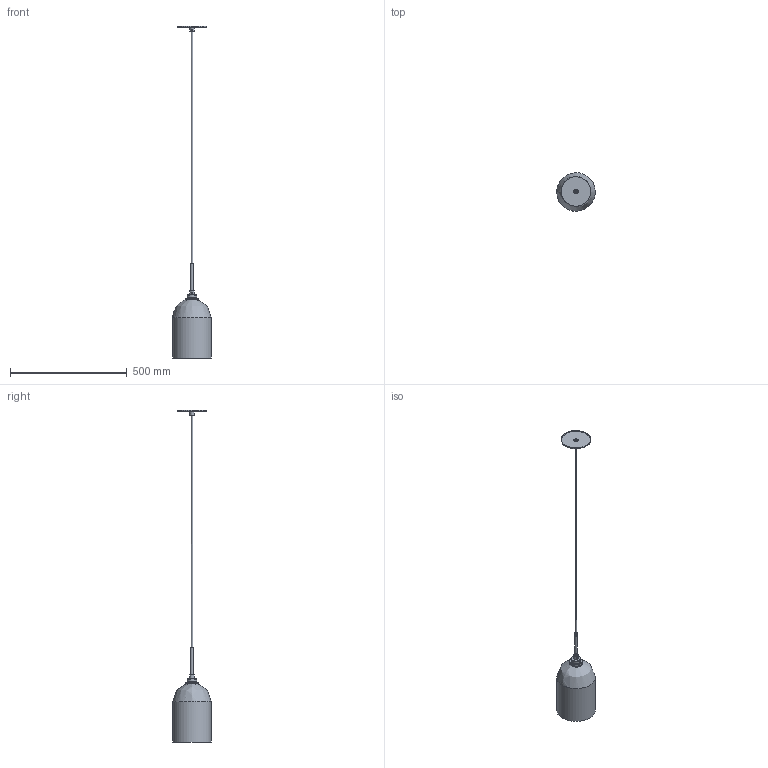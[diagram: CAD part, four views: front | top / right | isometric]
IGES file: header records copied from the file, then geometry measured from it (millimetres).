
Global section: file name: Niche - Cloche Pendant; native system: unknown; preprocessor: unknown; author: unknown; organization: unknown; date: 20220622.103632; units: inch
Bounding box: 165.1 x 164.97 x 1422.44 mm (x, y, z)
Volume: 683436.2 mm3; surface area: 369987.8 mm2
Topology: 12 solids, 12 shells, 164 faces, 408 edges, 274 vertices
Faces by surface type: bspline 164
